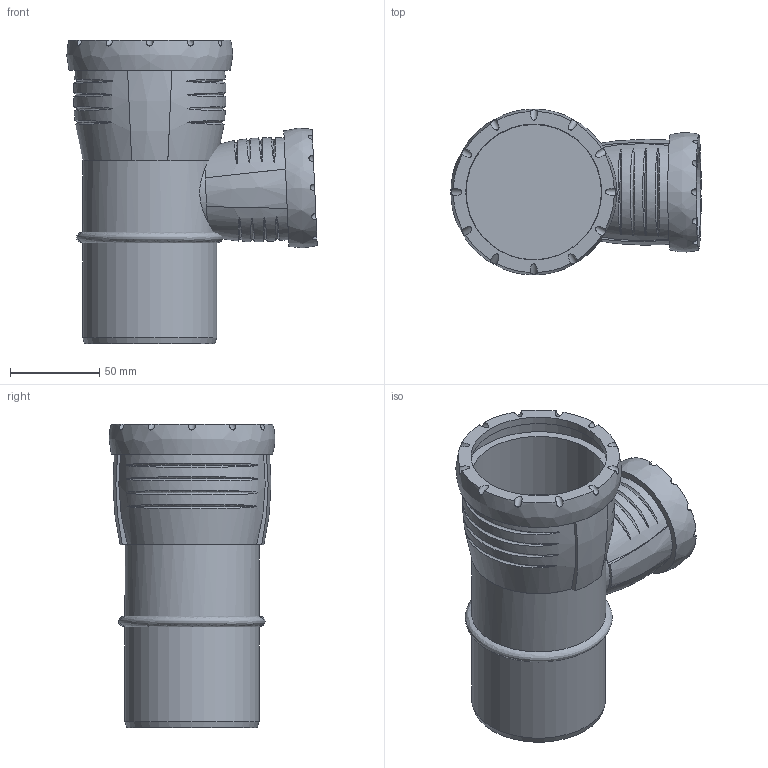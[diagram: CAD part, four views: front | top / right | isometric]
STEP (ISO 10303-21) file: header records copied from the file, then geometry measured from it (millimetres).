
FILE_DESCRIPTION(/* description */ (''),/* implementation_level */ '2;1');
FILE_NAME(/* name */ 'H:\Geberit-Teile\Export\Abzweig PP\stp\393348.stp',/* time_stamp */ '2017-02-13T13:16:39+01:00',/* author */ ('seihe2'),/* organization */ (''),/* preprocessor_version */ 'ST-DEVELOPER v15.2',/* originating_system */ 'Autodesk Inventor 2014',/* authorisation */ '');
FILE_SCHEMA (('AUTOMOTIVE_DESIGN { 1 0 10303 214 3 1 1 }'));
Length unit declared in the file: millimetre
Products named in the file (1): 393348
Bounding box: 140.39 x 92.99 x 170.4 mm (x, y, z)
Volume: 486494.3 mm3; surface area: 127370.8 mm2
Topology: 5 solids, 5 shells, 108 faces, 250 edges, 176 vertices
Faces by surface type: bspline 47, cylinder 41, plane 19, cone 1
Full cylindrical faces by diameter (mm): 36.243 x1, 50.7 x1, 51 x1, 58.903 x1, 60.1 x1, 67.6 x1, 75.2 x3, 75.9 x1, 76.2 x1, 85 x1
Entity records: 7789 total; most frequent: CARTESIAN_POINT 5556, ORIENTED_EDGE 470, DIRECTION 333, EDGE_CURVE 234, VERTEX_POINT 173, AXIS2_PLACEMENT_3D 166, EDGE_LOOP 149, B_SPLINE_CURVE_WITH_KNOTS 127
